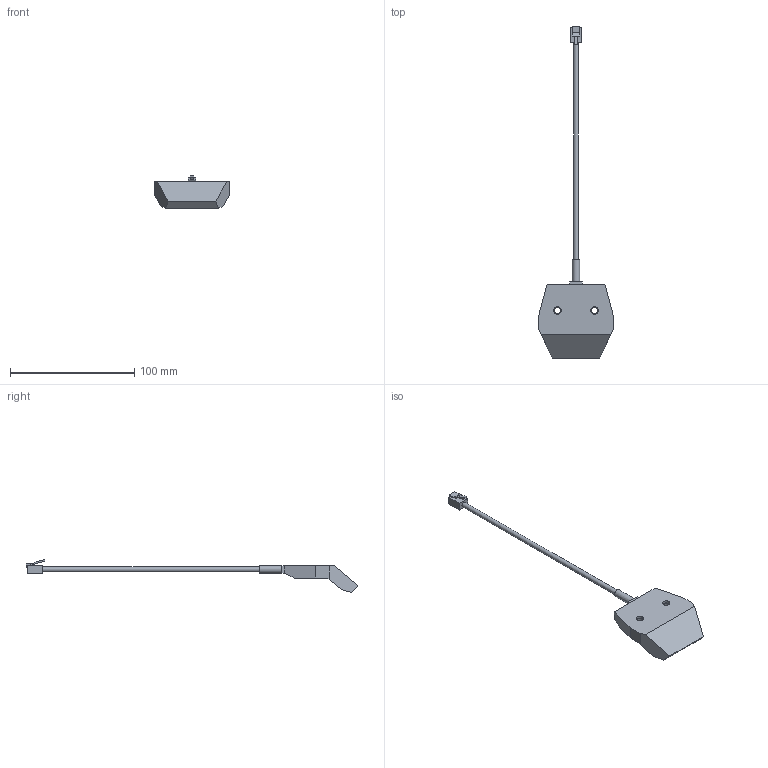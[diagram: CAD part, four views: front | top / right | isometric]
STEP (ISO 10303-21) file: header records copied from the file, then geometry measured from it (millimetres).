
FILE_DESCRIPTION( ( 'STEP AP214' ), '1' );
FILE_NAME( 'C:/Users/KOSH/Desktop/New folder/2021/Actiforce/Export/9309937.stp', '2021-12-03T10:13:23', ( '' ), ( '' ), ' ', 'PARTsolutions', ' ' );
FILE_SCHEMA( ( 'AUTOMOTIVE_DESIGN { 1 0 10303 214 1 1 1 1 }' ) );
Length unit declared in the file: millimetre
Products named in the file (1): _9309937
Bounding box: 59.89 x 267.57 x 26.5 mm (x, y, z)
Volume: 35982.3 mm3; surface area: 12068.9 mm2
Topology: 1 solids, 1 shells, 54 faces, 132 edges, 85 vertices
Faces by surface type: plane 47, cylinder 7
Full cylindrical faces by diameter (mm): 4 x1, 5 x2, 6 x4
Entity records: 1972 total; most frequent: CARTESIAN_POINT 263, DIRECTION 250, ORIENTED_EDGE 248, EDGE_CURVE 124, LINE 108, VECTOR 108, VERTEX_POINT 84, AXIS2_PLACEMENT_3D 71
